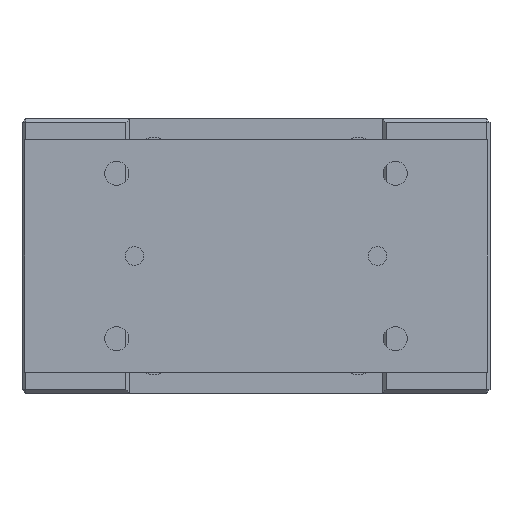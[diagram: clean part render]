
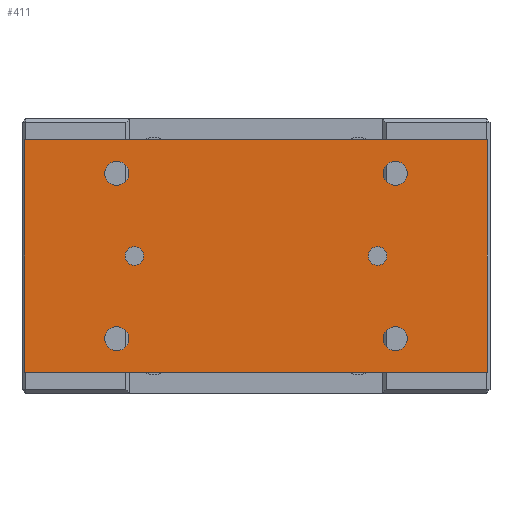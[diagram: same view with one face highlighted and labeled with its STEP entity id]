
A CAD part, left-side view. The second image highlights one B-rep face of the part: STEP entity #411.
In plain terms, the highlighted planar face has unit normal (-1, 0, 0).
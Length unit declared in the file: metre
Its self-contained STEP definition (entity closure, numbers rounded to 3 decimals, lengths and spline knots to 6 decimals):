
#411 = ADVANCED_FACE( '', ( #1019, #1020, #1021, #1022, #1023, #1024, #1025 ), #1026, .T. );
#1019 = FACE_BOUND( '', #1909, .T. );
#1020 = FACE_BOUND( '', #1910, .T. );
#1021 = FACE_BOUND( '', #1911, .T. );
#1022 = FACE_BOUND( '', #1912, .T. );
#1023 = FACE_BOUND( '', #1913, .T. );
#1024 = FACE_BOUND( '', #1914, .T. );
#1025 = FACE_OUTER_BOUND( '', #1915, .T. );
#1026 = PLANE( '', #1916 );
#1909 = EDGE_LOOP( '', ( #3054 ) );
#1910 = EDGE_LOOP( '', ( #3055 ) );
#1911 = EDGE_LOOP( '', ( #3056 ) );
#1912 = EDGE_LOOP( '', ( #3057 ) );
#1913 = EDGE_LOOP( '', ( #3058 ) );
#1914 = EDGE_LOOP( '', ( #3059 ) );
#1915 = EDGE_LOOP( '', ( #3060, #3061, #3062, #3063 ) );
#1916 = AXIS2_PLACEMENT_3D( '', #3064, #3065, #3066 );
#3054 = ORIENTED_EDGE( '', *, *, #4550, .F. );
#3055 = ORIENTED_EDGE( '', *, *, #4537, .T. );
#3056 = ORIENTED_EDGE( '', *, *, #4551, .F. );
#3057 = ORIENTED_EDGE( '', *, *, #4552, .F. );
#3058 = ORIENTED_EDGE( '', *, *, #4553, .F. );
#3059 = ORIENTED_EDGE( '', *, *, #4554, .F. );
#3060 = ORIENTED_EDGE( '', *, *, #4555, .T. );
#3061 = ORIENTED_EDGE( '', *, *, #4474, .T. );
#3062 = ORIENTED_EDGE( '', *, *, #4556, .T. );
#3063 = ORIENTED_EDGE( '', *, *, #4557, .T. );
#3064 = CARTESIAN_POINT( '', ( -0.143, -0.1245, -0.0115 ) );
#3065 = DIRECTION( '', ( -1., 0., 0. ) );
#3066 = DIRECTION( '', ( 0., 0., 1. ) );
#4474 = EDGE_CURVE( '', #5244, #5242, #5245, .T. );
#4537 = EDGE_CURVE( '', #5334, #5334, #5335, .T. );
#4550 = EDGE_CURVE( '', #5356, #5356, #5357, .T. );
#4551 = EDGE_CURVE( '', #5358, #5358, #5359, .T. );
#4552 = EDGE_CURVE( '', #5360, #5360, #5361, .T. );
#4553 = EDGE_CURVE( '', #5362, #5362, #5363, .T. );
#4554 = EDGE_CURVE( '', #5364, #5364, #5365, .T. );
#4555 = EDGE_CURVE( '', #5366, #5244, #5367, .T. );
#4556 = EDGE_CURVE( '', #5242, #5368, #5369, .T. );
#4557 = EDGE_CURVE( '', #5368, #5366, #5370, .T. );
#5242 = VERTEX_POINT( '', #6273 );
#5244 = VERTEX_POINT( '', #6276 );
#5245 = LINE( '', #6277, #6278 );
#5334 = VERTEX_POINT( '', #6463 );
#5335 = CIRCLE( '', #6464, 0.005 );
#5356 = VERTEX_POINT( '', #6489 );
#5357 = CIRCLE( '', #6490, 0.005 );
#5358 = VERTEX_POINT( '', #6491 );
#5359 = CIRCLE( '', #6492, 0.0065 );
#5360 = VERTEX_POINT( '', #6493 );
#5361 = CIRCLE( '', #6494, 0.0065 );
#5362 = VERTEX_POINT( '', #6495 );
#5363 = CIRCLE( '', #6496, 0.0065 );
#5364 = VERTEX_POINT( '', #6497 );
#5365 = CIRCLE( '', #6498, 0.0065 );
#5366 = VERTEX_POINT( '', #6499 );
#5367 = LINE( '', #6500, #6501 );
#5368 = VERTEX_POINT( '', #6502 );
#5369 = LINE( '', #6503, #6504 );
#5370 = LINE( '', #6505, #6506 );
#6273 = CARTESIAN_POINT( '', ( -0.143, 0.1245, -0.0115 ) );
#6276 = CARTESIAN_POINT( '', ( -0.143, -0.1245, -0.0115 ) );
#6277 = CARTESIAN_POINT( '', ( -0.143, -0.1245, -0.0115 ) );
#6278 = VECTOR( '', #7513, 1. );
#6463 = CARTESIAN_POINT( '', ( -0.143, 0.0705, -0.074 ) );
#6464 = AXIS2_PLACEMENT_3D( '', #7571, #7572, #7573 );
#6489 = CARTESIAN_POINT( '', ( -0.143, -0.0705, -0.074 ) );
#6490 = AXIS2_PLACEMENT_3D( '', #7590, #7591, #7592 );
#6491 = CARTESIAN_POINT( '', ( -0.143, -0.075, -0.112 ) );
#6492 = AXIS2_PLACEMENT_3D( '', #7593, #7594, #7595 );
#6493 = CARTESIAN_POINT( '', ( -0.143, 0.075, -0.112 ) );
#6494 = AXIS2_PLACEMENT_3D( '', #7596, #7597, #7598 );
#6495 = CARTESIAN_POINT( '', ( -0.143, -0.075, -0.023 ) );
#6496 = AXIS2_PLACEMENT_3D( '', #7599, #7600, #7601 );
#6497 = CARTESIAN_POINT( '', ( -0.143, 0.075, -0.023 ) );
#6498 = AXIS2_PLACEMENT_3D( '', #7602, #7603, #7604 );
#6499 = CARTESIAN_POINT( '', ( -0.143, -0.1245, -0.1365 ) );
#6500 = CARTESIAN_POINT( '', ( -0.143, -0.1245, -0.1365 ) );
#6501 = VECTOR( '', #7605, 1. );
#6502 = CARTESIAN_POINT( '', ( -0.143, 0.1245, -0.1365 ) );
#6503 = CARTESIAN_POINT( '', ( -0.143, 0.1245, -0.0115 ) );
#6504 = VECTOR( '', #7606, 1. );
#6505 = CARTESIAN_POINT( '', ( -0.143, 0.1245, -0.1365 ) );
#6506 = VECTOR( '', #7607, 1. );
#7513 = DIRECTION( '', ( 0., 1., 0. ) );
#7571 = CARTESIAN_POINT( '', ( -0.143, 0.0655, -0.074 ) );
#7572 = DIRECTION( '', ( 1., 0., 0. ) );
#7573 = DIRECTION( '', ( 0., 1., 0. ) );
#7590 = CARTESIAN_POINT( '', ( -0.143, -0.0655, -0.074 ) );
#7591 = DIRECTION( '', ( -1., 0., 0. ) );
#7592 = DIRECTION( '', ( 0., -1., 0. ) );
#7593 = CARTESIAN_POINT( '', ( -0.143, -0.075, -0.1185 ) );
#7594 = DIRECTION( '', ( -1., 0., 0. ) );
#7595 = DIRECTION( '', ( 0., 0., 1. ) );
#7596 = CARTESIAN_POINT( '', ( -0.143, 0.075, -0.1185 ) );
#7597 = DIRECTION( '', ( -1., 0., 0. ) );
#7598 = DIRECTION( '', ( 0., 0., 1. ) );
#7599 = CARTESIAN_POINT( '', ( -0.143, -0.075, -0.0295 ) );
#7600 = DIRECTION( '', ( -1., 0., 0. ) );
#7601 = DIRECTION( '', ( 0., 0., 1. ) );
#7602 = CARTESIAN_POINT( '', ( -0.143, 0.075, -0.0295 ) );
#7603 = DIRECTION( '', ( -1., 0., 0. ) );
#7604 = DIRECTION( '', ( 0., 0., 1. ) );
#7605 = DIRECTION( '', ( 0., 0., 1. ) );
#7606 = DIRECTION( '', ( 0., 0., -1. ) );
#7607 = DIRECTION( '', ( 0., -1., 0. ) );
